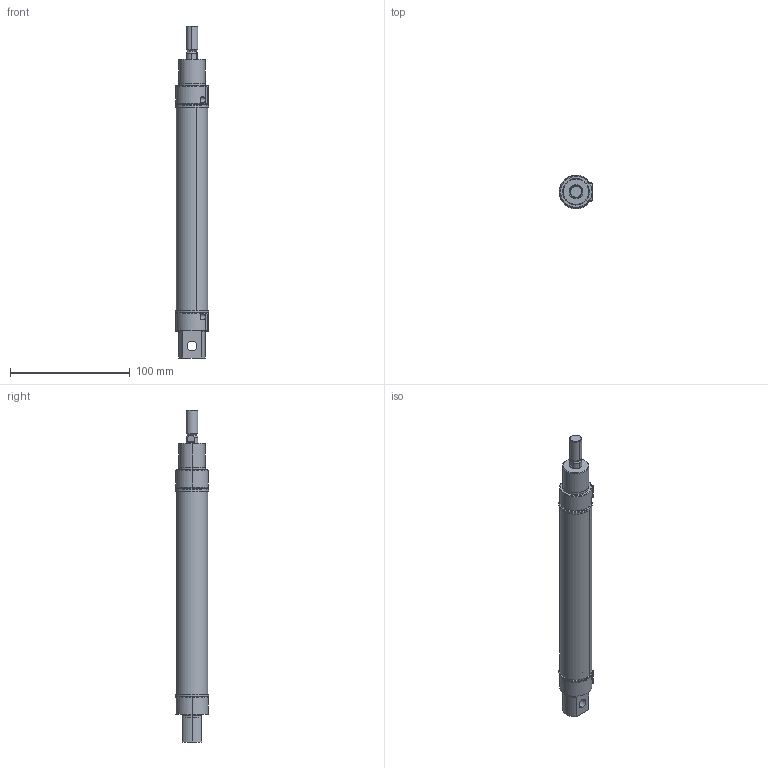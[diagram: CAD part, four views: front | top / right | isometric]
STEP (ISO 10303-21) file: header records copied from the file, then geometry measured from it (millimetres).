
FILE_DESCRIPTION (( 'STEP AP203' ), '1' );
FILE_NAME ('MAC6432S-25x140-CYLINDER.STEP', '2015-08-20T07:32:38', ( 'user' ), ( '' ), 'SwSTEP 2.0', 'SolidWorks 2013', '' );
FILE_SCHEMA (( 'CONFIG_CONTROL_DESIGN' ));
Length unit declared in the file: millimetre
Products named in the file (6): MAC6432S  25 ARKA KAPAK; MAC6432S  25 ORTA PÝSTON; MAC6432S  25X140 BORU; MAC6432S  25 烰 KAPAK; MAC6432S  25X140 M尳; MAC6432S-25x140-CYLINDER
Assembly tree (5 placements, depth 2):
  MAC6432S-25x140-CYLINDER
    MAC6432S  25 ARKA KAPAK
    MAC6432S  25 ORTA PÝSTON
    MAC6432S  25X140 BORU
    MAC6432S  25 烰 KAPAK
    MAC6432S  25X140 M尳
Bounding box: 28 x 28 x 277 mm (x, y, z)
Volume: 68670.9 mm3; surface area: 52117.9 mm2
Topology: 5 solids, 5 shells, 225 faces, 519 edges, 326 vertices
Faces by surface type: cylinder 100, plane 68, cone 27, torus 22, bspline 8
Entity records: 7539 total; most frequent: CARTESIAN_POINT 1795, DIRECTION 1127, ORIENTED_EDGE 1022, EDGE_CURVE 511, AXIS2_PLACEMENT_3D 476, VERTEX_POINT 326, EDGE_LOOP 265, CIRCLE 252
